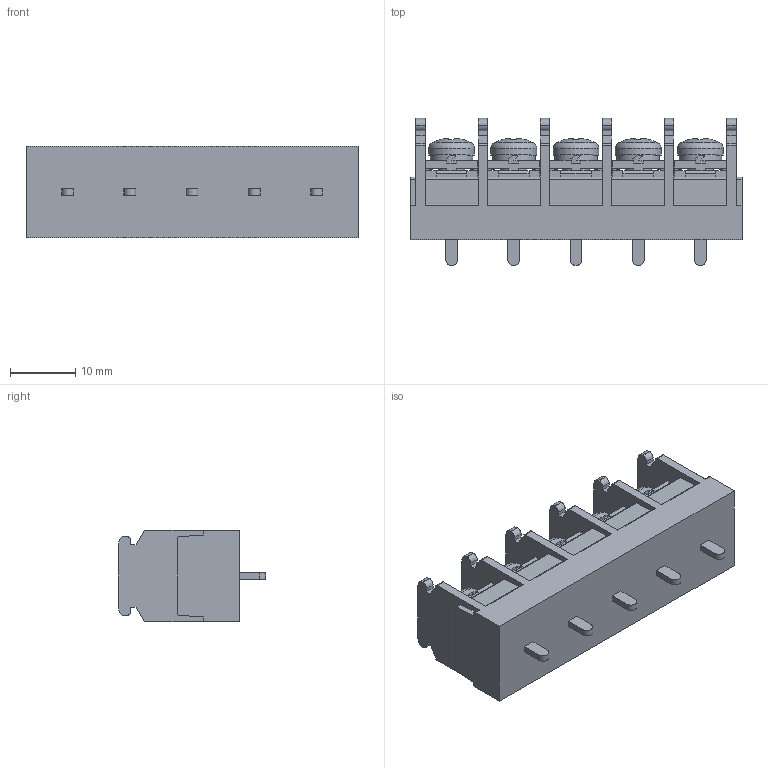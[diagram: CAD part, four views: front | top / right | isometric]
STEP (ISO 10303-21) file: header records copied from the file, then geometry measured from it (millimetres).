
FILE_DESCRIPTION(/* description */ ('Alibre Inc.'),/* implementation_level */ '2;1');
FILE_NAME(/* name */ 'export-486FEEF5-68CC-4285-94FF-9B60D2BE15C4',/* time_stamp */ '2021-02-13T13:59:07+09:00',/* author */ (''),/* organization */ (''),/* preprocessor_version */ 'ST-DEVELOPER v17',/* originating_system */ 'Alibre',/* authorisation */ '');
FILE_SCHEMA (('CONFIG_CONTROL_DESIGN'));
Length unit declared in the file: millimetre
Bounding box: 50.7 x 22.5 x 14 mm (x, y, z)
Volume: 8611.4 mm3; surface area: 5974.3 mm2
Topology: 1 solids, 22 shells, 990 faces, 2743 edges, 1807 vertices
Faces by surface type: plane 730, cylinder 116, bspline 104, cone 25, torus 10, sphere 5
Full cylindrical faces by diameter (mm): 4 x10, 7 x5
Entity records: 30236 total; most frequent: CARTESIAN_POINT 6476, ORIENTED_EDGE 5406, DIRECTION 3779, EDGE_CURVE 2703, VECTOR 1993, LINE 1993, VERTEX_POINT 1797, AXIS2_PLACEMENT_3D 1238
